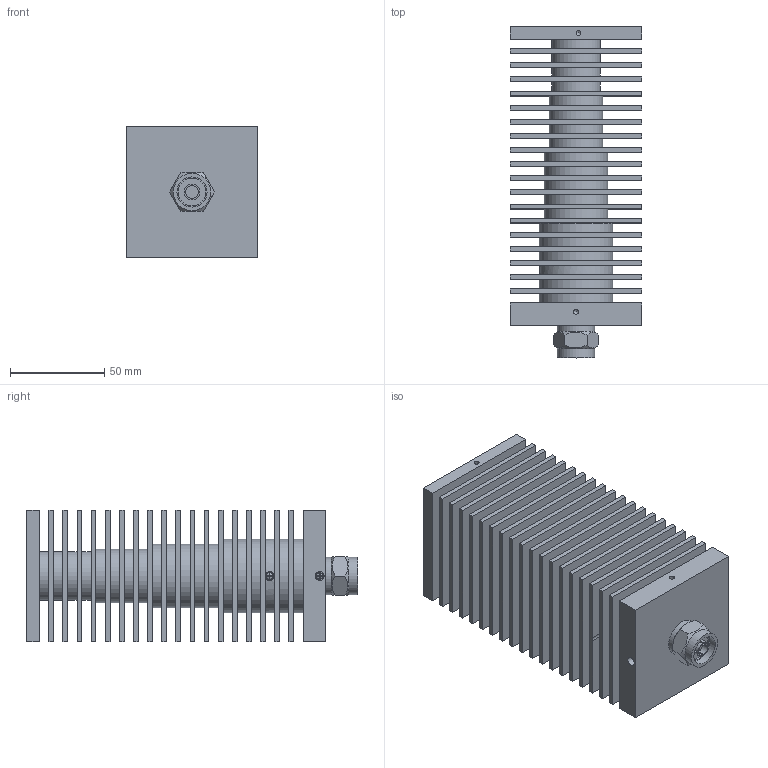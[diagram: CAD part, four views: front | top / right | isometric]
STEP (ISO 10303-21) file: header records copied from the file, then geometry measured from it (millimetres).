
FILE_DESCRIPTION(/* description */ ('Unknown'),/* implementation_level */ '2;1');
FILE_NAME(/* name */ '100-ST-MN Rev B STEP',/* time_stamp */ '2020-08-25T09:11:36-04:00',/* author */ ('Unknown'),/* organization */ ('Unknown'),/* preprocessor_version */ 'ST-DEVELOPER v16.7',/* originating_system */ 'Solid Edge',/* authorisation */ 'Unknown');
FILE_SCHEMA (('AUTOMOTIVE_DESIGN {1 0 10303 214 3 1 1}'));
Length unit declared in the file: millimetre
Products named in the file (1): 100-ST-MN
Bounding box: 69.85 x 176.07 x 69.85 mm (x, y, z)
Volume: 400128.1 mm3; surface area: 192670.2 mm2
Topology: 1 solids, 1 shells, 948 faces, 2472 edges, 1649 vertices
Faces by surface type: plane 726, cylinder 124, bspline 82, cone 14, sphere 2
Full cylindrical faces by diameter (mm): 2.647 x2, 3.556 x2, 4.75 x2, 14.834 x1, 16.002 x1, 19.71 x2, 25.984 x4, 28.55 x4, 33.63 x5, 38.862 x6
Entity records: 38164 total; most frequent: CARTESIAN_POINT 8974, ORIENTED_EDGE 4804, DIRECTION 4152, EDGE_CURVE 2402, LINE 1886, VECTOR 1886, VERTEX_POINT 1632, AXIS2_PLACEMENT_3D 1133
